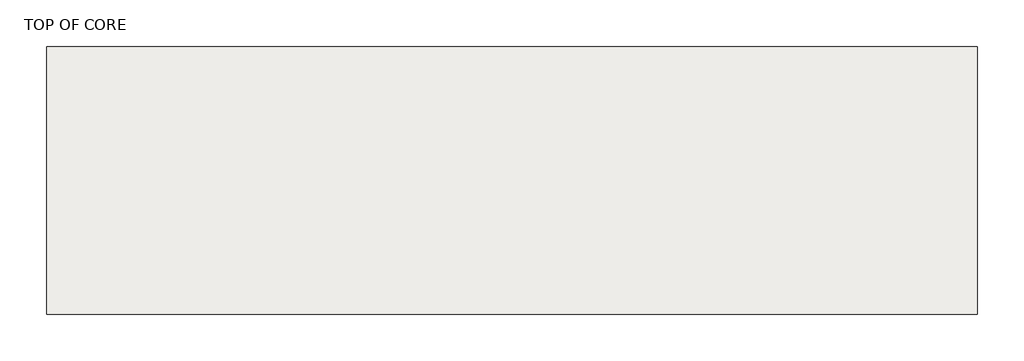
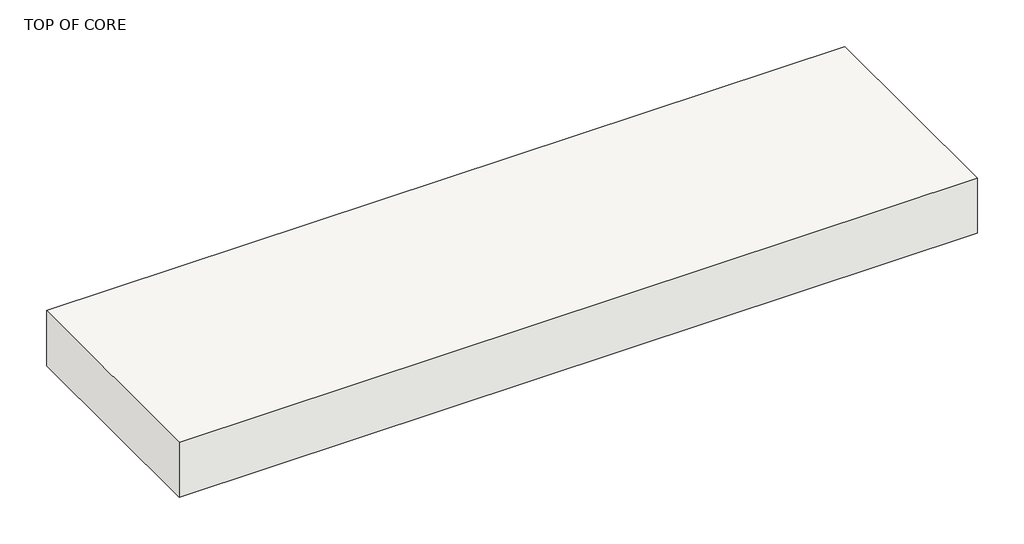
# One storey: 1 roof.
"""IFC4 building model written with IfcOpenShell, lengths in millimetres."""

from ifc_helpers import new_model, si_unit, frame, origin, place, context, project, spatial, polyline, outline, extrude, element, save

model = new_model("IFC4")

# Units and contexts
model_context = context("Model", 3, world=origin())
ifc_project = project(units=[si_unit("LENGTHUNIT", "METRE", prefix="MILLI")], contexts=[model_context])

# Site, building, storey
site = spatial("IfcSite", under=ifc_project)
building = spatial("IfcBuilding", under=site)
storey = spatial("IfcBuildingStorey", under=building, Name="TOP OF CORE", Elevation=14020.8)

# Roof
placement = place(None, origin())
element("IfcRoof", 1, ObjectType="Steel Truss - Insulation on Metal Deck - EPDM", at=placement, inside=storey, context=model_context, shape_type="SweptSolid", body=[
    extrude(outline(polyline([(3000.5560388, 11603.459643), (3000.5560388, 9457.159643), (-4467.0439612, 9457.159643), (-4467.0439612, 11603.459643), (3000.5560388, 11603.459643)])), frame((0.0, 0.0, 13411.2), z_axis=(0.0, 0.0, 1.0), x_axis=(1.0, 0.0, 0.0)), (0.0, 0.0, 1.0), 546.1),
])

save(model, "model.ifc")
